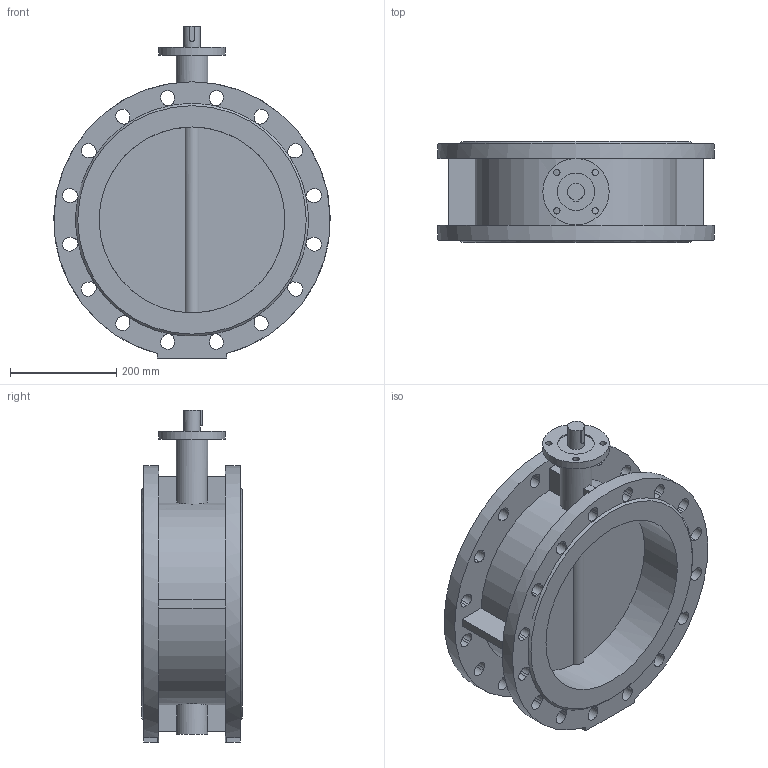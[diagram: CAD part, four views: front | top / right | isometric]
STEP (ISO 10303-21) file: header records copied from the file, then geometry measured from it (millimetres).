
FILE_DESCRIPTION(('STEP AP203'), '1');
FILE_NAME('Çàòâîð 021F.Y DN350 PN10_16 ïîä ÝÏ', '', ('UNSPECIFIED'), ('UNSPECIFIED'), 'ASCON STEP Converter 1.6', 'ASCON Math Kernel', '');
FILE_SCHEMA(('CONFIG_CONTROL_DESIGN'));
Length unit declared in the file: millimetre
Bounding box: 520 x 190 x 625 mm (x, y, z)
Volume: 11127262.4 mm3; surface area: 1200809.4 mm2
Topology: 1 solids, 1 shells, 196 faces, 617 edges, 400 vertices
Faces by surface type: plane 110, cylinder 84, cone 2
Full cylindrical faces by diameter (mm): 12 x4, 31.7 x1, 60 x2, 70 x1, 125 x1, 350 x2, 520 x2
Entity records: 9377 total; most frequent: CARTESIAN_POINT 2084, DIRECTION 1197, ORIENTED_EDGE 1172, EDGE_CURVE 586, AXIS2_PLACEMENT_3D 425, VERTEX_POINT 392, LINE 347, VECTOR 347
